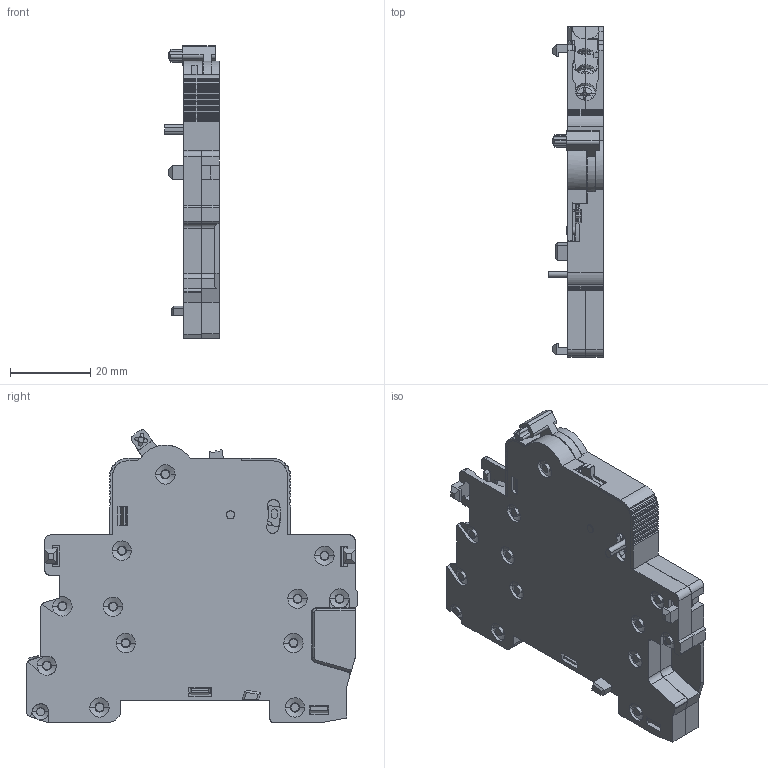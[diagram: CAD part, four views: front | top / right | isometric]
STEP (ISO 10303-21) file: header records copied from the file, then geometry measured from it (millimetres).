
FILE_DESCRIPTION (( 'STEP AP214' ), '1' );
FILE_NAME ('TGB1N-OF.STEP', '2025-12-15T12:49:03', ( '' ), ( '' ), 'SwSTEP 2.0', 'SolidWorks 2024', '' );
FILE_SCHEMA (( 'AUTOMOTIVE_DESIGN' ));
Length unit declared in the file: millimetre
Products named in the file (4): TGB1N-OF; _2__SW0001.stp; TGB1N-OF.stp; 155.stp
Assembly tree (3 placements, depth 3):
  TGB1N-OF
    TGB1N-OF.stp
      155.stp
      _2__SW0001.stp
Bounding box: 13.65 x 82.21 x 72.79 mm (x, y, z)
Volume: 10697.8 mm3; surface area: 30508.2 mm2
Topology: 4 solids, 5 shells, 2221 faces, 6440 edges, 4252 vertices
Faces by surface type: plane 1375, cylinder 676, cone 83, bspline 73, torus 14
Entity records: 84227 total; most frequent: CARTESIAN_POINT 29702, ORIENTED_EDGE 12838, DIRECTION 9308, EDGE_CURVE 6440, VERTEX_POINT 4252, AXIS2_PLACEMENT_3D 3273, LINE 2762, VECTOR 2762
